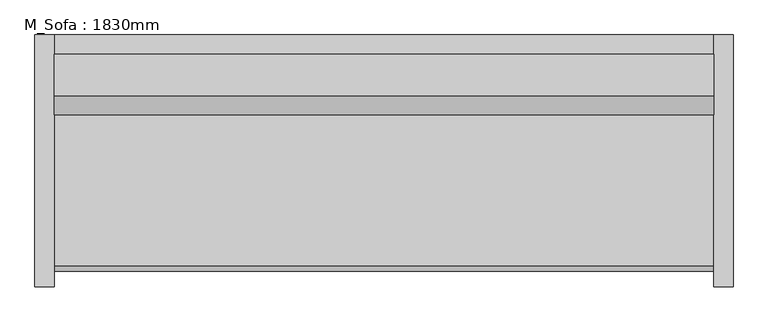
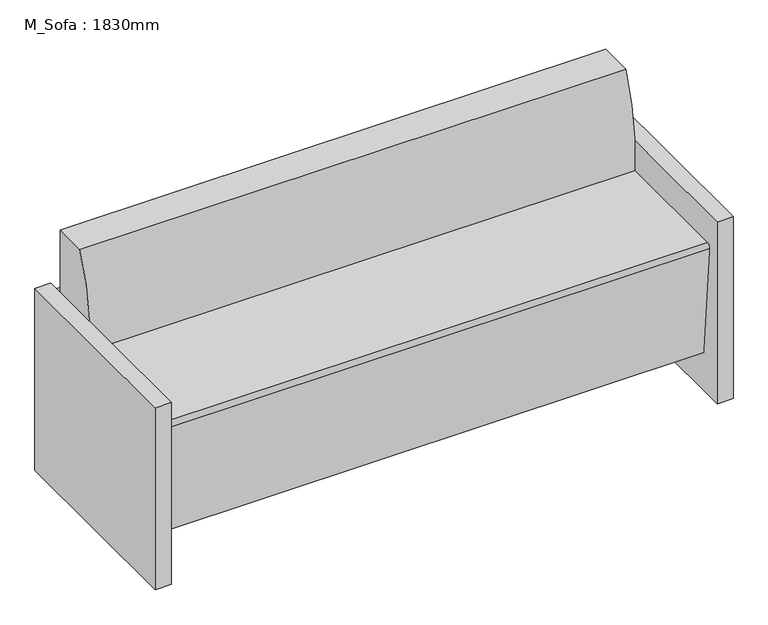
"""IFC4 building model written with IfcOpenShell, lengths in millimetres: furniture geometry, M_Sofa : 1830mm."""

from ifc_helpers import new_model, si_unit, point, frame, frame_2d, origin, origin_with_axes, place, context, project, spatial, polyline, circle_curve, trimmed, segment, composite_curve, outline, extrude, source, transform, mapped, element, save


def m_sofa_1830mm_58d08fc1(model_context):
    return source(origin(), model_context, "Body", "SweptSolid", [
        extrude(outline(polyline([(-793.8295082, 425.5540984), (-793.8295082, 476.3540984), (934.5704918, 476.3540984), (934.5704918, 425.5540984), (-793.8295082, 425.5540984)])), frame((0.0, 0.0, 457.2), z_axis=(0.0, 0.0, 1.0), x_axis=(1.0, 0.0, 0.0)), (0.0, 0.0, 1.0), 127.0),
        extrude(outline(polyline([(-793.8295082, 425.5540984), (-793.8295082, 476.3540984), (934.5704918, 476.3540984), (934.5704918, 425.5540984), (-793.8295082, 425.5540984)])), frame((0.0, 0.0, 266.7), z_axis=(0.0, 0.0, 1.0), x_axis=(1.0, 0.0, 0.0)), (0.0, 0.0, 1.0), 127.0),
        extrude(outline(polyline([(-793.8295082, 425.5540984), (-793.8295082, 476.3540984), (934.5704918, 476.3540984), (934.5704918, 425.5540984), (-793.8295082, 425.5540984)])), frame((0.0, 0.0, 76.2), z_axis=(0.0, 0.0, 1.0), x_axis=(1.0, 0.0, 0.0)), (0.0, 0.0, 1.0), 127.0),
        extrude(outline(composite_curve([segment(trimmed(circle_curve(frame_2d((922.296849, 559.5961108)), 658.0880666), [point((266.165594, 508.8843804))], [point((317.2421635, 818.417924))], False, "CARTESIAN"), True, "CONTINUOUS"), segment(polyline([(317.2421635, 818.417924), (425.5540984, 818.417924), (425.5540984, 127.9665467), (-111.108343, 127.9665467), (-143.2263899, 495.0775025)]), True, "CONTINUOUS"), segment(trimmed(circle_curve(frame_2d((-130.5747172, 496.1843804)), 12.7), [point((-143.2263899, 495.0775025))], [point((-130.5747172, 508.8843804))], False, "CARTESIAN"), True, "CONTINUOUS"), segment(polyline([(-130.5747172, 508.8843804), (266.165594, 508.8843804)]), True, "CONTINUOUS")], self_intersect=False)), frame((-793.8295082, 0.0, 0.0), z_axis=(1.0, 0.0, 0.0), x_axis=(0.0, 1.0, 0.0)), (0.0, 0.0, 1.0), 1728.4),
        extrude(outline(polyline([(-793.8295082, 476.3540984), (-793.8295082, -184.0459016), (-844.6295082, -184.0459016), (-844.6295082, 476.3540984), (-793.8295082, 476.3540984)])), origin_with_axes(), (0.0, 0.0, 1.0), 609.6),
        extrude(outline(polyline([(985.3704918, 476.3540984), (985.3704918, -184.0459016), (934.5704918, -184.0459016), (934.5704918, 476.3540984), (985.3704918, 476.3540984)])), origin_with_axes(), (0.0, 0.0, 1.0), 609.6),
    ])


if __name__ == "__main__":
    model = new_model("IFC4")
    model_context = context("Model", 3, world=origin())
    ifc_project = project(units=[si_unit("LENGTHUNIT", "METRE", prefix="MILLI")], contexts=[model_context])
    site = spatial("IfcSite", under=ifc_project)
    building = spatial("IfcBuilding", under=site)
    placement = place(None, origin())
    m_sofa_1830mm_shape = m_sofa_1830mm_58d08fc1(model_context)
    element("IfcFurniture", 1, ObjectType="M_Sofa : 1830mm", at=placement, inside=building, context=model_context, shape_type="MappedRepresentation", body=[
        mapped(m_sofa_1830mm_shape, transform((0.0, 0.0, 0.0), x_axis=(1.0, 0.0, 0.0), y_axis=(0.0, 1.0, 0.0), z_axis=(0.0, 0.0, 1.0))),
    ])
    save(model, "model.ifc")
